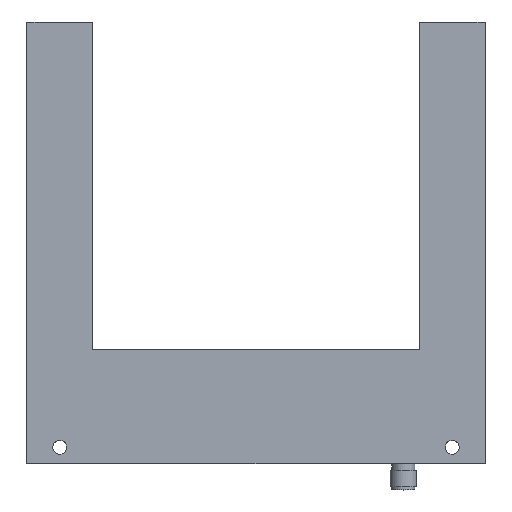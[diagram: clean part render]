
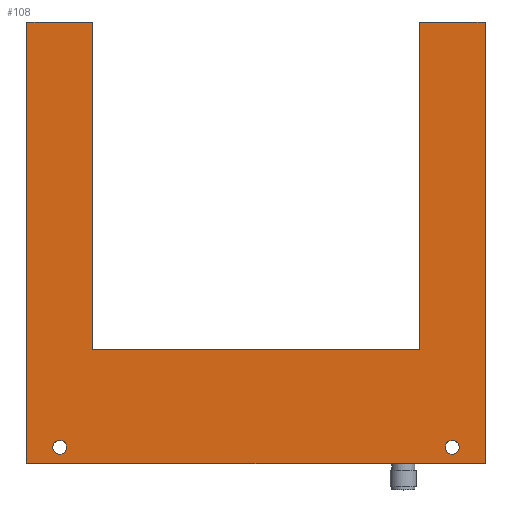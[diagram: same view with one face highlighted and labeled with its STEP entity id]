
A CAD part, top view. The second image highlights one B-rep face of the part: STEP entity #108.
In plain terms, the highlighted planar face has unit normal (0, 0, 1).
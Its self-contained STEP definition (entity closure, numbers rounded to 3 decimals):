
#108=ADVANCED_FACE('',(#260,#261,#262),#263,.T.);
#260=FACE_OUTER_BOUND('',#454,.T.);
#261=FACE_BOUND('',#455,.T.);
#262=FACE_BOUND('',#456,.T.);
#263=PLANE('',#457);
#454=EDGE_LOOP('',(#706,#707,#708,#709,#710,#711,#712,#713));
#455=EDGE_LOOP('',(#714,#715));
#456=EDGE_LOOP('',(#716,#717));
#457=AXIS2_PLACEMENT_3D('',#718,#719,#720);
#706=ORIENTED_EDGE('',*,*,#1169,.F.);
#707=ORIENTED_EDGE('',*,*,#1185,.F.);
#708=ORIENTED_EDGE('',*,*,#1186,.F.);
#709=ORIENTED_EDGE('',*,*,#1187,.F.);
#710=ORIENTED_EDGE('',*,*,#1188,.F.);
#711=ORIENTED_EDGE('',*,*,#1189,.F.);
#712=ORIENTED_EDGE('',*,*,#1190,.F.);
#713=ORIENTED_EDGE('',*,*,#1181,.F.);
#714=ORIENTED_EDGE('',*,*,#1191,.T.);
#715=ORIENTED_EDGE('',*,*,#1192,.T.);
#716=ORIENTED_EDGE('',*,*,#1193,.T.);
#717=ORIENTED_EDGE('',*,*,#1194,.T.);
#718=CARTESIAN_POINT('',(0.,-8.667,10.));
#719=DIRECTION('',(0.0,0.0,1.0));
#720=DIRECTION('',(1.0,-0.0,0.0));
#1169=EDGE_CURVE('',#1402,#1403,#1404,.T.);
#1181=EDGE_CURVE('',#1403,#1422,#1423,.T.);
#1185=EDGE_CURVE('',#1428,#1402,#1429,.T.);
#1186=EDGE_CURVE('',#1430,#1428,#1431,.T.);
#1187=EDGE_CURVE('',#1432,#1430,#1433,.T.);
#1188=EDGE_CURVE('',#1434,#1432,#1435,.T.);
#1189=EDGE_CURVE('',#1436,#1434,#1437,.T.);
#1190=EDGE_CURVE('',#1422,#1436,#1438,.T.);
#1191=EDGE_CURVE('',#1439,#1440,#1441,.T.);
#1192=EDGE_CURVE('',#1440,#1439,#1442,.T.);
#1193=EDGE_CURVE('',#1443,#1444,#1445,.T.);
#1194=EDGE_CURVE('',#1444,#1443,#1446,.T.);
#1402=VERTEX_POINT('',#1714);
#1403=VERTEX_POINT('',#1715);
#1404=LINE('',#1716,#1717);
#1422=VERTEX_POINT('',#1738);
#1423=LINE('',#1739,#1740);
#1428=VERTEX_POINT('',#1747);
#1429=LINE('',#1748,#1749);
#1430=VERTEX_POINT('',#1750);
#1431=LINE('',#1751,#1752);
#1432=VERTEX_POINT('',#1753);
#1433=LINE('',#1754,#1755);
#1434=VERTEX_POINT('',#1756);
#1435=LINE('',#1757,#1758);
#1436=VERTEX_POINT('',#1759);
#1437=LINE('',#1760,#1761);
#1438=LINE('',#1762,#1763);
#1439=VERTEX_POINT('',#1764);
#1440=VERTEX_POINT('',#1765);
#1441=CIRCLE('',#1766,2.15);
#1442=CIRCLE('',#1767,2.15);
#1443=VERTEX_POINT('',#1768);
#1444=VERTEX_POINT('',#1769);
#1445=CIRCLE('',#1770,2.15);
#1446=CIRCLE('',#1771,2.15);
#1714=CARTESIAN_POINT('',(70.0,-67.5,10.0));
#1715=CARTESIAN_POINT('',(-70.0,-67.5,10.0));
#1716=CARTESIAN_POINT('',(70.0,-67.5,10.0));
#1717=VECTOR('',#2081,1.0);
#1738=CARTESIAN_POINT('',(-70.0,67.5,10.0));
#1739=CARTESIAN_POINT('',(-70.0,-67.5,10.0));
#1740=VECTOR('',#2103,1.0);
#1747=CARTESIAN_POINT('',(70.0,67.5,10.0));
#1748=CARTESIAN_POINT('',(70.0,67.5,10.0));
#1749=VECTOR('',#2106,1.0);
#1750=CARTESIAN_POINT('',(50.0,67.5,10.0));
#1751=CARTESIAN_POINT('',(50.0,67.5,10.0));
#1752=VECTOR('',#2107,1.0);
#1753=CARTESIAN_POINT('',(50.0,-32.5,10.0));
#1754=CARTESIAN_POINT('',(50.0,-32.5,10.0));
#1755=VECTOR('',#2108,1.0);
#1756=CARTESIAN_POINT('',(-50.0,-32.5,10.0));
#1757=CARTESIAN_POINT('',(-50.0,-32.5,10.0));
#1758=VECTOR('',#2109,1.0);
#1759=CARTESIAN_POINT('',(-50.0,67.5,10.0));
#1760=CARTESIAN_POINT('',(-50.0,67.5,10.0));
#1761=VECTOR('',#2110,1.0);
#1762=CARTESIAN_POINT('',(-70.0,67.5,10.0));
#1763=VECTOR('',#2111,1.0);
#1764=CARTESIAN_POINT('',(57.85,-62.5,10.0));
#1765=CARTESIAN_POINT('',(62.15,-62.5,10.0));
#1766=AXIS2_PLACEMENT_3D('',#2112,#2113,#2114);
#1767=AXIS2_PLACEMENT_3D('',#2115,#2116,#2117);
#1768=CARTESIAN_POINT('',(-62.15,-62.5,10.0));
#1769=CARTESIAN_POINT('',(-57.85,-62.5,10.0));
#1770=AXIS2_PLACEMENT_3D('',#2118,#2119,#2120);
#1771=AXIS2_PLACEMENT_3D('',#2121,#2122,#2123);
#2081=DIRECTION('',(-1.0,0.,0.0));
#2103=DIRECTION('',(0.,1.0,0.0));
#2106=DIRECTION('',(0.,-1.0,0.0));
#2107=DIRECTION('',(1.0,0.0,0.0));
#2108=DIRECTION('',(0.,1.0,0.0));
#2109=DIRECTION('',(1.0,0.0,0.0));
#2110=DIRECTION('',(0.,-1.0,0.0));
#2111=DIRECTION('',(1.0,0.0,0.0));
#2112=CARTESIAN_POINT('',(60.0,-62.5,10.0));
#2113=DIRECTION('',(0.0,0.0,-1.0));
#2114=DIRECTION('',(1.0,0.0,0.0));
#2115=CARTESIAN_POINT('',(60.0,-62.5,10.0));
#2116=DIRECTION('',(0.0,0.0,-1.0));
#2117=DIRECTION('',(1.0,0.0,0.0));
#2118=CARTESIAN_POINT('',(-60.0,-62.5,10.0));
#2119=DIRECTION('',(0.0,0.0,-1.0));
#2120=DIRECTION('',(1.0,0.0,0.0));
#2121=CARTESIAN_POINT('',(-60.0,-62.5,10.0));
#2122=DIRECTION('',(0.0,0.0,-1.0));
#2123=DIRECTION('',(1.0,0.0,0.0));
